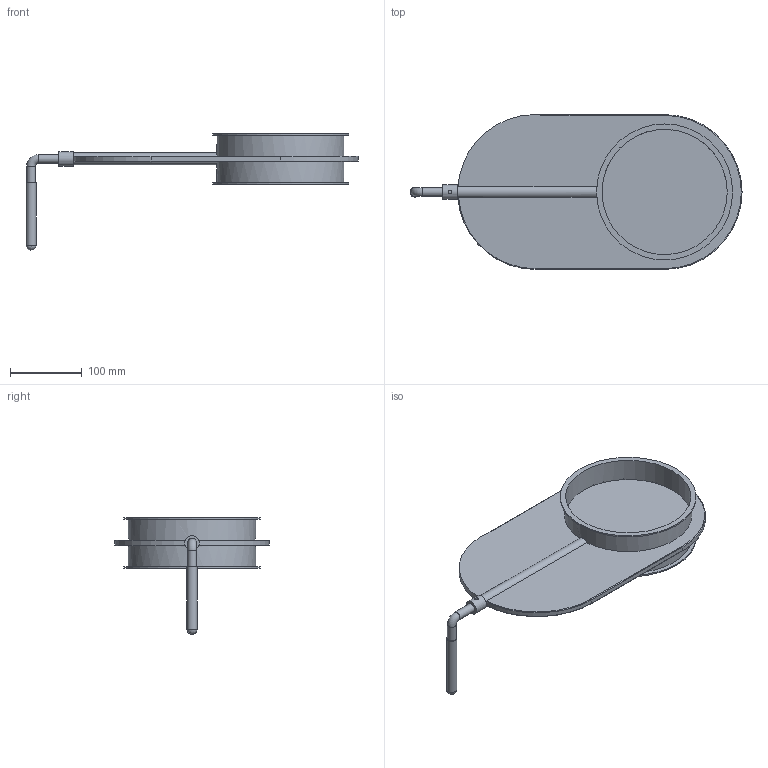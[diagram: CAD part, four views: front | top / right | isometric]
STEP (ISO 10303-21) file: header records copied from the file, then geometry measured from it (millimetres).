
FILE_DESCRIPTION((''),'2;1');
FILE_NAME('U:\Wolfgang\Marcel-3D\fertig\Kapitel 9\1711077.stp','2011-10-11T12:55:14',('iwienholt'),(''),'Autodesk Inventor 2010','Autodesk Inventor 2010','');
FILE_SCHEMA(('AUTOMOTIVE_DESIGN { 1 0 10303 214 1 1 1 1 }'));
Length unit declared in the file: millimetre
Products named in the file (3): 1711077; 1711077-1; Hebel-Ronde DN175
Assembly tree (2 placements, depth 2):
  1711077
    1711077-1
    Hebel-Ronde DN175
Bounding box: 461.14 x 215 x 161.95 mm (x, y, z)
Volume: 387348.6 mm3; surface area: 382353.3 mm2
Topology: 2 solids, 2 shells, 49 faces, 125 edges, 80 vertices
Faces by surface type: cylinder 24, plane 19, torus 5, sphere 1
Full cylindrical faces by diameter (mm): 4.917 x1, 12 x2, 12.5 x1, 14 x1, 16.5 x1, 20 x1, 174 x2, 177 x2, 189 x2
Entity records: 1632 total; most frequent: CARTESIAN_POINT 475, DIRECTION 234, ORIENTED_EDGE 196, AXIS2_PLACEMENT_3D 100, EDGE_CURVE 98, EDGE_LOOP 72, VERTEX_POINT 70, FACE_OUTER_BOUND 49
